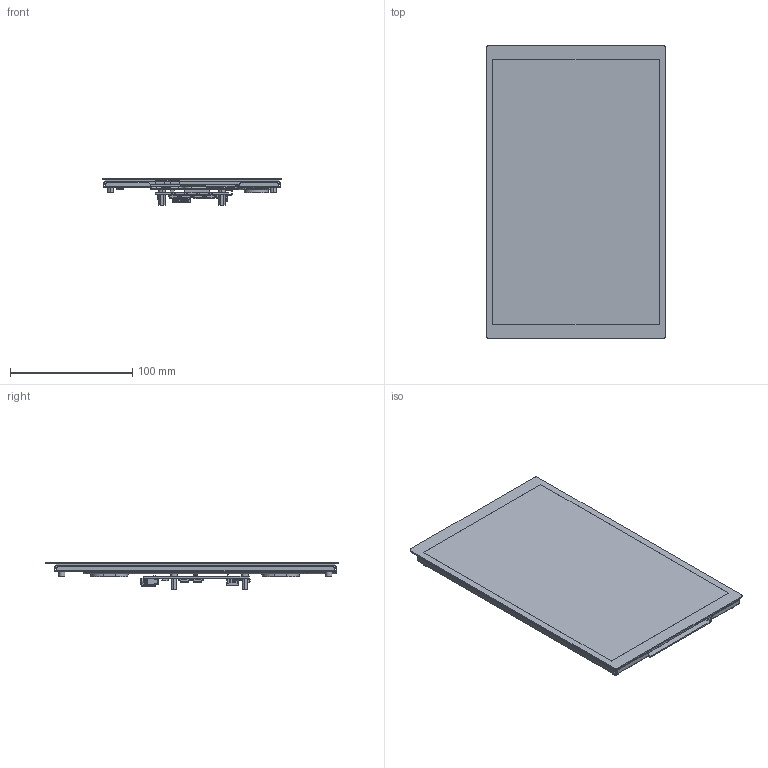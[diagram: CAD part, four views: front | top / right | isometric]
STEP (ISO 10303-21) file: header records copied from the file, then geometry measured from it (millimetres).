
FILE_DESCRIPTION((''),'2;1');
FILE_NAME('10_1EP-CAPLCD_ASM','2025-04-30T18:23:52',('xiaojisheng'),(''),'CREO PARAMETRIC BY PTC INC, 2021063','CREO PARAMETRIC BY PTC INC, 2021063','');
FILE_SCHEMA(('CONFIG_CONTROL_DESIGN','SHAPE_APPEARANCE_LAYERS_GROUPS'));
Products named in the file (18): 101INCH-JYM1015853281BB; 101INCH-800X1280-TP; 10_1INCH-FHD-LCD-PCB; HDMI-CONNECTOR; TYPE-C_16PIN-9X3X7_3; HEX_STUDS-M2_5XH9XL4; FH12-6PIN-0_5SH_TP-CONNECTOR; 40PIN-0_5SH_LCD_CONNECTOR; J1_CUI_DEVICES_SJ2-35894D-SMT-T; FPC0_5MM-20PIN-000; HP2_0-3PIN-SMT; HP1_25MMX4PIN-SMT; SWITCH-7X3_3X3_5; 10_1INCH-FHD-LCD-PCBA_ASM; SPK-2030X4MM; EVA; 10_1EP-CAPLCD-BRACKET-T0_8-1104; 10_1EP-CAPLCD_ASM
Assembly tree (25 placements, depth 3):
  10_1EP-CAPLCD_ASM
    101INCH-JYM1015853281BB
    101INCH-800X1280-TP
    10_1INCH-FHD-LCD-PCBA_ASM
      10_1INCH-FHD-LCD-PCB
      HDMI-CONNECTOR
      TYPE-C_16PIN-9X3X7_3  x2
      HEX_STUDS-M2_5XH9XL4  x4
      FH12-6PIN-0_5SH_TP-CONNECTOR
      40PIN-0_5SH_LCD_CONNECTOR
      J1_CUI_DEVICES_SJ2-35894D-SMT-T
      FPC0_5MM-20PIN-000
      HP2_0-3PIN-SMT
      HP1_25MMX4PIN-SMT  x2
      SWITCH-7X3_3X3_5  x4
    SPK-2030X4MM
    EVA
    10_1EP-CAPLCD-BRACKET-T0_8-1104
Bounding box: 147 x 239 x 21.9 mm (x, y, z)
Volume: 224672.1 mm3; surface area: 344170.2 mm2
Topology: 31 solids, 36 shells, 6768 faces, 19145 edges, 12394 vertices
Faces by surface type: plane 4661, cylinder 1690, torus 192, bspline 99, cone 66, sphere 54, extrusion 6
Entity records: 221763 total; most frequent: CARTESIAN_POINT 37225, ORIENTED_EDGE 29726, DIRECTION 27721, EDGE_CURVE 14863, VECTOR 11701, LINE 11695, PRESENTATION_STYLE_ASSIGNMENT 11586, STYLED_ITEM 11147
